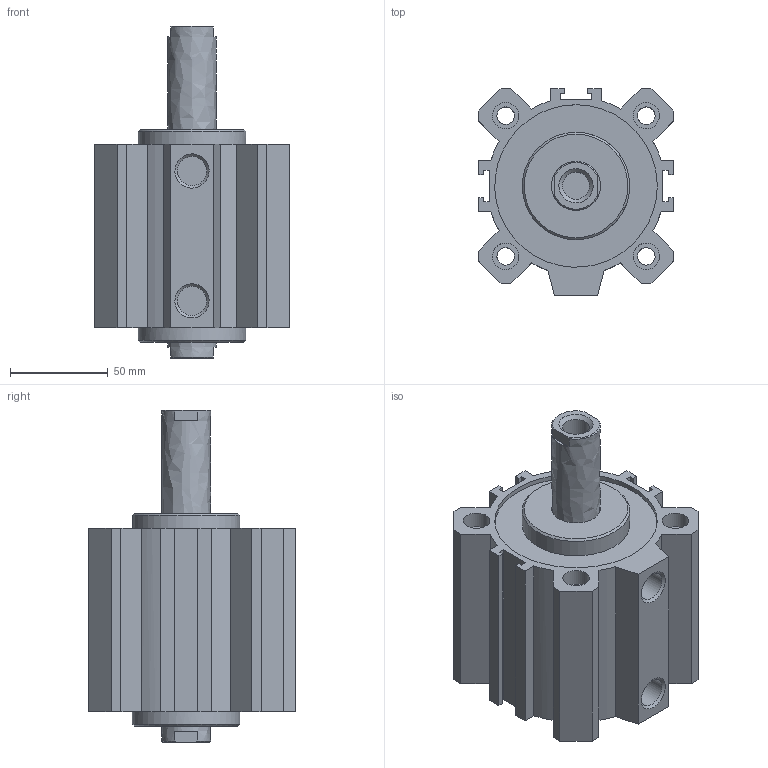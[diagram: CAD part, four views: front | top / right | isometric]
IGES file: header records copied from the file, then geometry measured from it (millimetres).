
Global section: file name: 1514_80_0045; native system: Autodesk Inventor 2014; preprocessor: unknown; author: A. Manieri; date: 20160824.142350; units: millimetre
Bounding box: 100 x 106 x 170 mm (x, y, z)
Volume: 607895.7 mm3; surface area: 138898.7 mm2
Topology: 2 solids, 2 shells, 132 faces, 346 edges, 238 vertices
Faces by surface type: bspline 132
